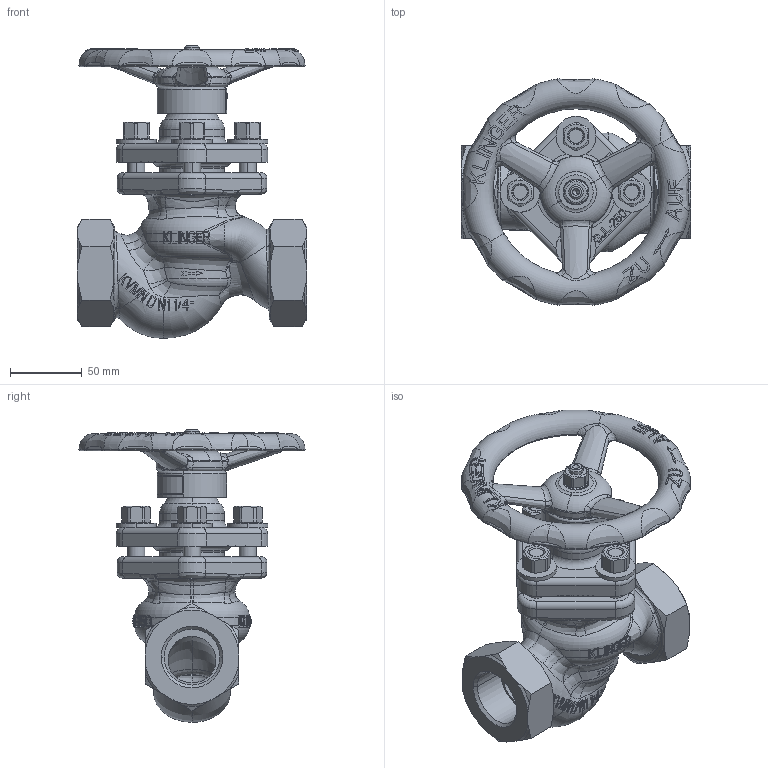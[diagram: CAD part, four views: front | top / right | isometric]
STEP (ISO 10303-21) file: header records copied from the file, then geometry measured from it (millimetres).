
FILE_DESCRIPTION((''),'2;1');
FILE_NAME('KVMN-G54S-----P016DGG_SW0001','2015-07-09T',('jeitlers'),('RAND'),'PRO/ENGINEER BY PARAMETRIC TECHNOLOGY CORPORATION, 2013410','PRO/ENGINEER BY PARAMETRIC TECHNOLOGY CORPORATION, 2013410','');
FILE_SCHEMA(('CONFIG_CONTROL_DESIGN'));
Products named in the file (1): KVMN-G54S-----P016DGG_SW0001
Bounding box: 160 x 157.91 x 204.3 mm (x, y, z)
Volume: 736241.1 mm3; surface area: 200321.1 mm2
Topology: 2 solids, 3 shells, 2546 faces, 6851 edges, 4381 vertices
Faces by surface type: plane 1475, bspline 439, cylinder 319, torus 163, cone 148, sphere 2
Entity records: 161644 total; most frequent: CARTESIAN_POINT 103381, ORIENTED_EDGE 13694, DIRECTION 9868, EDGE_CURVE 6847, VERTEX_POINT 4381, AXIS2_PLACEMENT_3D 3446, VECTOR 2976, LINE 2976
